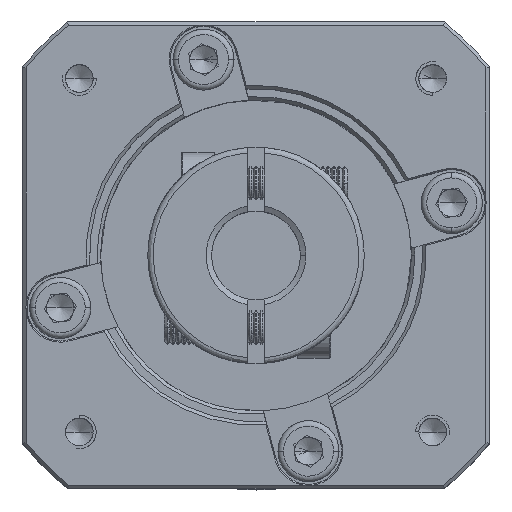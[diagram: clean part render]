
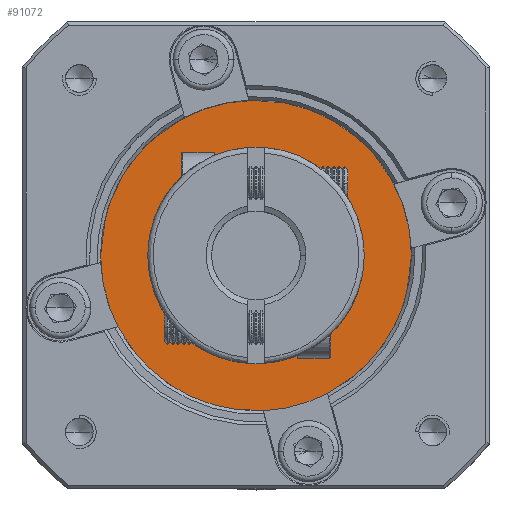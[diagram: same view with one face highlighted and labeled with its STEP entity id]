
A CAD part, top view. The second image highlights one B-rep face of the part: STEP entity #91072.
In plain terms, the highlighted planar face has unit normal (0, 0, 1).
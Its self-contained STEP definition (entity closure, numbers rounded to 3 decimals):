
#3465 = DIRECTION ( 'NONE',  ( 0., 0., -1. ) ) ;
#9670 = CIRCLE ( 'NONE', #60159, 20.8 ) ;
#16287 = CARTESIAN_POINT ( 'NONE',  ( -42.357, 4.283, 61.425 ) ) ;
#44323 = CARTESIAN_POINT ( 'NONE',  ( -21.557, 4.283, 61.425 ) ) ;
#50616 = ORIENTED_EDGE ( 'NONE', *, *, #130177, .F. ) ;
#55968 = DIRECTION ( 'NONE',  ( 1., 0., 0. ) ) ;
#56210 = AXIS2_PLACEMENT_3D ( 'NONE', #73067, #3465, #84757 ) ;
#56907 = EDGE_LOOP ( 'NONE', ( #102955, #50616 ) ) ;
#60159 = AXIS2_PLACEMENT_3D ( 'NONE', #138758, #69132, #150400 ) ;
#69132 = DIRECTION ( 'NONE',  ( 0., 0., -1. ) ) ;
#71999 = VERTEX_POINT ( 'NONE', #149284 ) ;
#73067 = CARTESIAN_POINT ( 'NONE',  ( -21.557, 4.283, 61.425 ) ) ;
#76011 = FACE_OUTER_BOUND ( 'NONE', #56907, .T. ) ;
#83385 = VERTEX_POINT ( 'NONE', #16287 ) ;
#84757 = DIRECTION ( 'NONE',  ( -1., 0., 0. ) ) ;
#91072 = ADVANCED_FACE ( 'NONE', ( #76011 ), #125081, .T. ) ;
#102955 = ORIENTED_EDGE ( 'NONE', *, *, #137342, .F. ) ;
#106687 = AXIS2_PLACEMENT_3D ( 'NONE', #44323, #125586, #55968 ) ;
#124005 = CIRCLE ( 'NONE', #56210, 20.8 ) ;
#125081 = PLANE ( 'NONE',  #106687 ) ;
#125586 = DIRECTION ( 'NONE',  ( 0., 0., 1. ) ) ;
#130177 = EDGE_CURVE ( 'NONE', #71999, #83385, #124005, .T. ) ;
#137342 = EDGE_CURVE ( 'NONE', #83385, #71999, #9670, .T. ) ;
#138758 = CARTESIAN_POINT ( 'NONE',  ( -21.557, 4.283, 61.425 ) ) ;
#149284 = CARTESIAN_POINT ( 'NONE',  ( -0.757, 4.283, 61.425 ) ) ;
#150400 = DIRECTION ( 'NONE',  ( -1., 0., 0. ) ) ;
